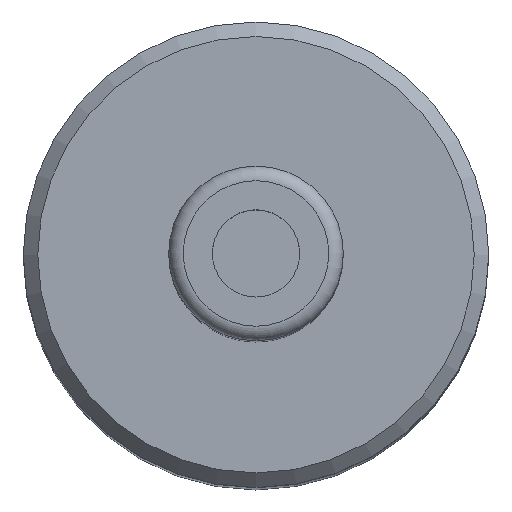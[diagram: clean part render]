
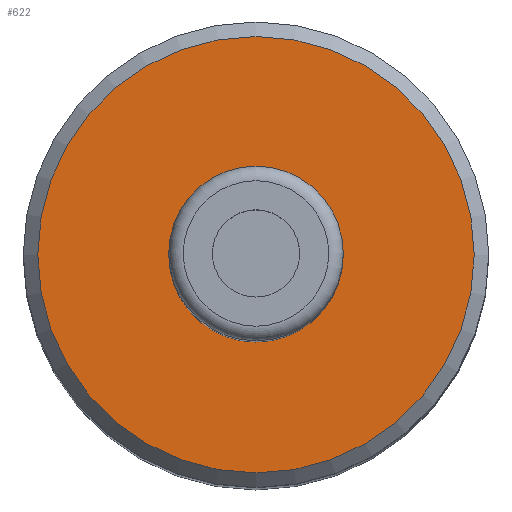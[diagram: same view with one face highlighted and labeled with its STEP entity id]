
A CAD part, top view. The second image highlights one B-rep face of the part: STEP entity #622.
In plain terms, the highlighted planar face has unit normal (0, 0, 1).
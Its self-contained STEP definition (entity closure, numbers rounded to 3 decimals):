
#602 = VERTEX_POINT('',#603);
#603 = CARTESIAN_POINT('',(15.,0.,99.));
#611 = EDGE_CURVE('',#602,#602,#612,.T.);
#612 = CIRCLE('',#613,15.);
#613 = AXIS2_PLACEMENT_3D('',#614,#615,#616);
#614 = CARTESIAN_POINT('',(0.,0.,99.));
#615 = DIRECTION('',(0.,0.,1.));
#616 = DIRECTION('',(1.,0.,0.));
#622 = ADVANCED_FACE('',(#623),#626,.T.);
#623 = FACE_BOUND('',#624,.T.);
#624 = EDGE_LOOP('',(#625));
#625 = ORIENTED_EDGE('',*,*,#611,.T.);
#626 = PLANE('',#627);
#627 = AXIS2_PLACEMENT_3D('',#628,#629,#630);
#628 = CARTESIAN_POINT('',(0.,0.,99.));
#629 = DIRECTION('',(0.,0.,1.));
#630 = DIRECTION('',(1.,0.,0.));
